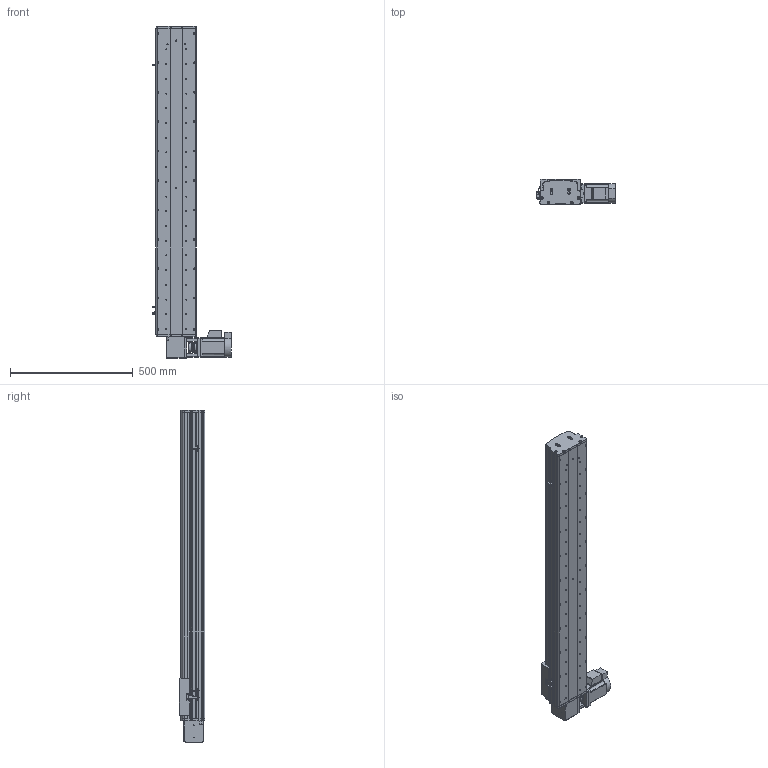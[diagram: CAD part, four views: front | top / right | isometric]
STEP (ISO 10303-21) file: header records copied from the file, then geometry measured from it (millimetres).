
FILE_DESCRIPTION (( 'STEP AP214' ), '1' );
FILE_NAME ('KSD165B-S1000-MRT-CM.STEP', '2017-08-14T05:59:17', ( '微软用户' ), ( '微软中国' ), 'SwSTEP 2.0', 'SolidWorks 2014', '' );
FILE_SCHEMA (( 'AUTOMOTIVE_DESIGN' ));
Length unit declared in the file: millimetre
Products named in the file (16): KSD165模组同步带底板-1000行程; 拸秶雄ん750W侜督萇儂; 165宽安装板同步带带电机座750W; 165宽马达安装板同步带右; C39ㄜ1419WP; U倰嫖萇假蚾璃; U倰嫖萇EEㄜSX672; 覜茼え68遵圉猾敕; KSD165模组-同步带-防撞垫2; KSD165模组同步带-防撞垫1; KSD165耀郪-ヶ傷啣1-肮祭湍; KSD165模组-后端板1-同步带; 130宽马达安装板1-带电机座750W（1）; KSD165模组-同步带滑动座-最新版; KSD165B-S1000-MRT-CM; KSD165模组-同步带防尘盖1-1000行程
Assembly tree (19 placements, depth 2):
  KSD165B-S1000-MRT-CM
    KSD165模组-同步带滑动座-最新版
    130宽马达安装板1-带电机座750W（1）
    KSD165模组-后端板1-同步带
    KSD165耀郪-ヶ傷啣1-肮祭湍
    KSD165模组同步带-防撞垫1
    KSD165模组-同步带-防撞垫2
    覜茼え68遵圉猾敕
    U倰嫖萇EEㄜSX672  x3
    U倰嫖萇假蚾璃  x3
    C39ㄜ1419WP
    165宽马达安装板同步带右
    165宽安装板同步带带电机座750W
    拸秶雄ん750W侜督萇儂
    KSD165模组同步带底板-1000行程
    KSD165模组-同步带防尘盖1-1000行程
Bounding box: 321.2 x 104 x 1354 mm (x, y, z)
Volume: 7885461.5 mm3; surface area: 1781073.4 mm2
Topology: 20 solids, 20 shells, 1514 faces, 4218 edges, 2733 vertices
Faces by surface type: cylinder 839, plane 581, cone 94
Entity records: 48423 total; most frequent: CARTESIAN_POINT 10145, DIRECTION 7516, ORIENTED_EDGE 7088, EDGE_CURVE 3544, AXIS2_PLACEMENT_3D 2864, VERTEX_POINT 2325, LINE 1788, VECTOR 1788
